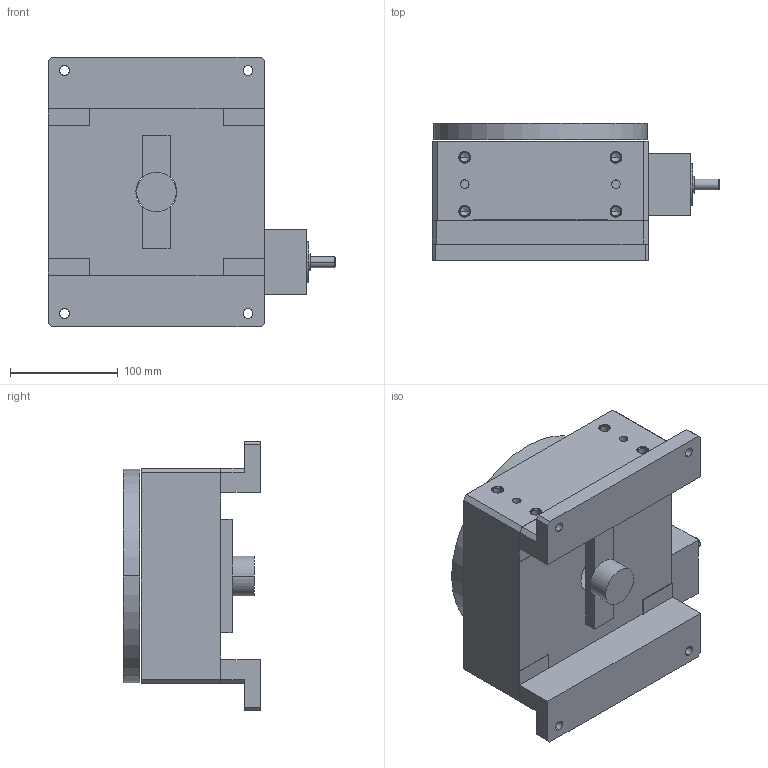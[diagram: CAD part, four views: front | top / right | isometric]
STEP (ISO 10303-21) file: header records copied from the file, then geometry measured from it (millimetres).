
FILE_DESCRIPTION((''),'2;1');
FILE_NAME('R200M7M00E1_ASM','2009-07-02T',('FK20128'),(''),'PRO/ENGINEER BY PARAMETRIC TECHNOLOGY CORPORATION, 2006200','PRO/ENGINEER BY PARAMETRIC TECHNOLOGY CORPORATION, 2006200','');
FILE_SCHEMA(('CONFIG_CONTROL_DESIGN'));
Length unit declared in the file: millimetre
Products named in the file (6): R200M; R200M-ENCODER-BRKT; R200M-ENCODER-STANDOFF; RXXXM-ENCODER; R200M-E1_ASM; R200M7M00E1_ASM
Assembly tree (6 placements, depth 3):
  R200M7M00E1_ASM
    R200M
    R200M-E1_ASM
      R200M-ENCODER-BRKT
      R200M-ENCODER-STANDOFF  x2
      RXXXM-ENCODER
Bounding box: 266.09 x 127 x 250.02 mm (x, y, z)
Volume: 3909301.5 mm3; surface area: 334205.3 mm2
Topology: 6 solids, 26 shells, 284 faces, 704 edges, 458 vertices
Faces by surface type: cylinder 140, plane 102, cone 42
Entity records: 7745 total; most frequent: DIRECTION 1472, CARTESIAN_POINT 1288, ORIENTED_EDGE 1132, EDGE_CURVE 602, AXIS2_PLACEMENT_3D 594, VERTEX_POINT 410, EDGE_LOOP 344, CIRCLE 318
